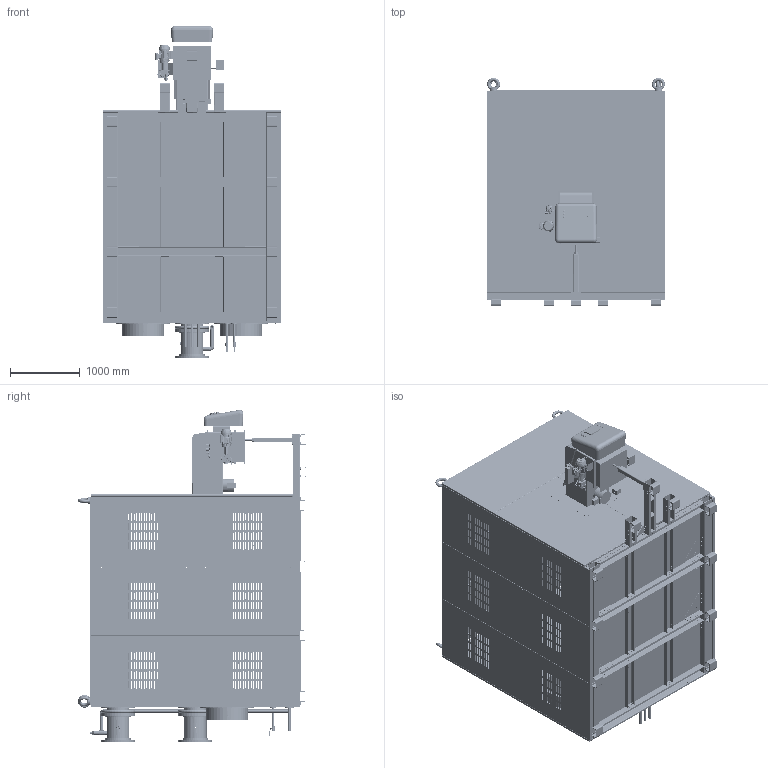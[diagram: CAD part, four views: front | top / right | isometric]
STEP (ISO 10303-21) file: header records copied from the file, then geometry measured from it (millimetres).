
FILE_DESCRIPTION (( 'STEP AP214' ), '1' );
FILE_NAME ('CBRP-SC11-V1.STEP', '2024-04-17T13:22:13', ( '' ), ( '' ), 'SwSTEP 2.0', 'SolidWorks 2020', '' );
FILE_SCHEMA (( 'AUTOMOTIVE_DESIGN' ));
Length unit declared in the file: millimetre
Products named in the file (101): CBRP-SC11-V1-32; CBRP-SC11-V1-11-05; plain washer grade a_din_Washer DIN 125 - A 19; CBRN-SC11-V1-01-04; curved spring lock washer_din_Spring washer DIN 128 - A24; CBRP-SC11-V1-04-02; CBRP-SC11-V1-12; curved spring lock washer_din_Spring washer DIN 128 - A18; CBRP-SC11-V1-31-13; CBRP-SC11-V1-04-01_1372; MirrorCBRP-SC11-V1-31-03; curved spring lock washer_din_Spring washer DIN 128 - A36; CBRP-SC11-V1-32-10; CBRP-SC11-V1-11-01; CBRP-SC11-V1-02; plain washer grade a_din_Washer DIN 125 - A 25; CBRP-SC11-V1-52-05; CBRP-SC11-V1-04-01_4; MirrorCBRP-SC11-V1-32-10; 2; CBRP-SC11-V1-21-03; curved spring lock washer_din_Spring washer DIN 128 - A12; CBRP-SC11-V1-11-06; hex nut gradec_din1_Hexagon Nut ISO 4033 - M30 - W - N; CBRP-SC11-V1-61-07; CBRP-SC11-V1-06-20; MirrorCBRP-SC11-V1-31-02; hex head structural bolt_din_DIN 7990 - M24 x 130-WN; CBRP-SC11-V1-06-06; Eye bolt M56 DIN 580.step; CBRP-SC11-V1-12-01; CBRP-SC11-V1-21-05; plain washer grade a_din_Washer DIN 125 - A 13; MirrorCBRP-SC11-V1-61-07; CBRP-SC11-V1-53-12; CBRP-SC11-V1-31-02; CBRP-SC11-V1-11-04; CBRP-SC11-V1-31-09; CBRP-SC11-V1-32-18; CBRP-SC11-V1-62-05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
Assembly tree (192 placements, depth 5):
  CBRP-SC11-V1
    CBRP-SC11-V1-02
      CBRP-SC11-V1-05_6M Kcal-h
        CBRP-SC11-V1-52
          CBRP-SC11-V1-52-05
          CBRP-SC11-V1-52-13
          CBRP-SC11-V1-52-26  x2
          CBRP-SC11-V1-52-27
          CBRP-SC11-V1-52-28_3
        CBRP-SC11-V1-53
          CBRP-SC11-V1-53-12
          CBRP-SC11-V1-52-13
          RLGB-M-M-705-DB-L-SHORT-FLAME.step
        CBRP-SC11-V1-57-01
        CBRP-SC11-V1-52-26  x2
        CBRP-SC11-V1-52-27
      CBRP-SC11-V1-03
        CBRP-SC11-V1-31
          CBRP-SC11-V1-31-02
          CBRP-SC11-V1-31-03
          CBRP-SC11-V1-31-10
          CBRP-SC11-V1-31-20  x4
          MirrorCBRP-SC11-V1-31-03
          CBRP-SC11-V1-31-06  x8
          CBRP-SC11-V1-31-09  x2
          CBRP-SC11-V1-32-10  x4
          MirrorCBRP-SC11-V1-32-10  x4
          CBRP-SC11-V1-31-08  x2
          CBRP-SC11-V1-31-05  x2
          CBRP-SC11-V1-31-19
          CBRP-SC11-V1-31-13  x11
          CBRP-SC11-V1-31-24  x2
          CBRP-SC11-V1-31-25
          CBRP-SC11-V1-31-23
          CBRP-SC11-V1-31-26  x4
          CBRP-SC11-V1-32-18  x2
          CBRP-SC11-V1-31-29  x2
          MirrorCBRP-SC11-V1-31-02
        CBRP-SC11-V1-32
          Eye bolt M56 DIN 580.step  x4
      CBRP-SC11-V1-04
        CBRP-SC11-V1-41  x2
          CBRP-SC11-V1-41-01
          CBRP-SC11-V1-41-02
        CBRP-SC11-V1-04-01_4
        CBRP-SC11-V1-04-02  x3
        CBRP-SC11-V1-42-12  x5
        CBRP-SC11-V1-52-21  x5
        CBRP-SC11-V1-04-01_1372
        CBRP-SC11-V1-04-01_2
      CBRP-SC11-V1-21
        CBRP-SC11-V1-21-02
        hex nut gradec_din1_Hexagon Nut ISO 4033 - M30 - W - N  x2
        CBRP-SC11-V1-21-03
        CBRP-SC11-V1-21-05
        CBRP-SC11-V1-21-01
        CBRP-SC11-V1-21-04
      hex nut style 1 gradeab_iso1_ISO - 4032 - M48 - W - N
    CBRP-SC11-V1-06
      CBRP-SC11-V1-06-02
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Bounding box: 2556.8 x 3268 x 4754.28 mm (x, y, z)
Volume: 210916412.4 mm3; surface area: 154633924.5 mm2
Topology: 194 solids, 393 shells, 33302 faces, 89848 edges, 57699 vertices
Faces by surface type: plane 15840, cylinder 8626, bspline 6786, cone 1542, torus 461, sphere 47
Full cylindrical faces by diameter (mm): 18.7 x1
Entity records: 909212 total; most frequent: CARTESIAN_POINT 482555, ORIENTED_EDGE 105734, DIRECTION 53165, EDGE_CURVE 53037, B_SPLINE_CURVE_WITH_KNOTS 37216, VERTEX_POINT 33883, EDGE_LOOP 22972, AXIS2_PLACEMENT_3D 21103
